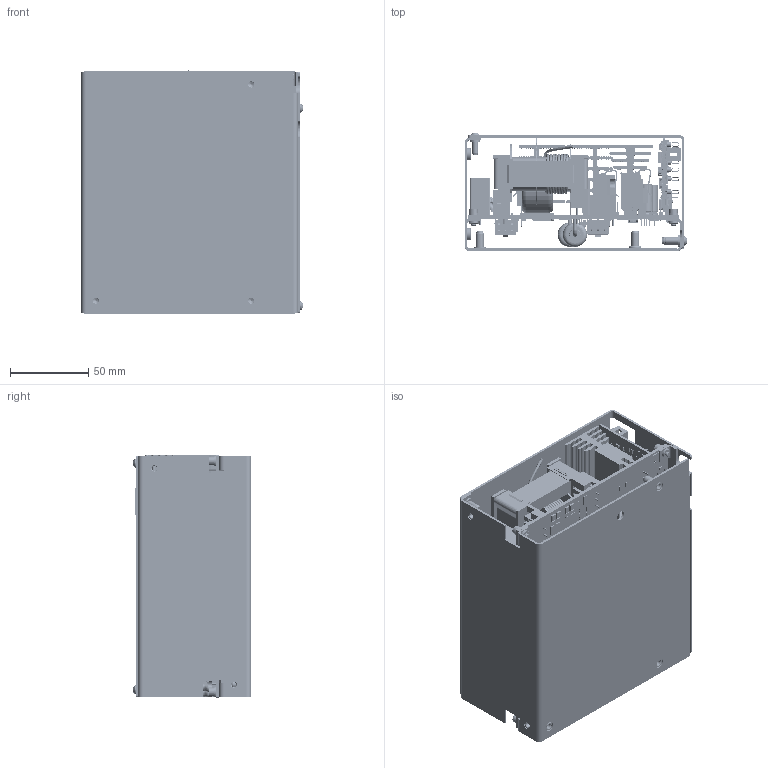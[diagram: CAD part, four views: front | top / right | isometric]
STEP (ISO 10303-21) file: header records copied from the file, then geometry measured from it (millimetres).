
FILE_DESCRIPTION (( 'STEP AP214' ), '1' );
FILE_NAME ('410.00.00.000-05_PCP-17.STEP', '2021-10-24T08:22:20', ( '' ), ( '' ), 'SwSTEP 2.0', 'SolidWorks 2018', '' );
FILE_SCHEMA (( 'AUTOMOTIVE_DESIGN' ));
Length unit declared in the file: millimetre
Products named in the file (15): Çàêëåïêà ðåçüáîâàÿ óìåíüø. áóðòèê M4x10,5_0520; ﾘ琺矜 ﾌ3 DIN127; Ãàéêà CN clinch nut M4; Ãàéêà CN clinch nut M3; PCP30revC; 妈眚 󉱲 ISO7380; 妈眚 󉱴 DIN912; CTR24 RevA; 410.00.00.000-05_PCP-17; ﾘ琺矜 ﾌ3 DIN125; 410.01.00.001-03_扻豵鵨_-00SM-FLAT-PATTERN; 410.02.00.000-01_Ïëàòà PCP30; 410.01.00.000-03_Êîðïóñ â ñáîðå (ñáîðî÷íàÿ åäèíèöà); Çàêëåïêà ðåçüáîâàÿ óìåíüø. áóðòèê M3x0,5x9; 410.00.00.001-05_Êðûøêà
Assembly tree (36 placements, depth 3):
  410.00.00.000-05_PCP-17
    410.01.00.000-03_Êîðïóñ â ñáîðå (ñáîðî÷íàÿ åäèíèöà)
      410.01.00.001-03_扻豵鵨_-00SM-FLAT-PATTERN
      Ãàéêà CN clinch nut M3  x4
      Ãàéêà CN clinch nut M4  x2
      Çàêëåïêà ðåçüáîâàÿ óìåíüø. áóðòèê M3x0,5x9  x4
      Çàêëåïêà ðåçüáîâàÿ óìåíüø. áóðòèê M4x10,5_0520  x4
    410.02.00.000-01_Ïëàòà PCP30
      PCP30revC
      CTR24 RevA
    410.00.00.001-05_Êðûøêà
    ﾘ琺矜 ﾌ3 DIN125  x4
    ﾘ琺矜 ﾌ3 DIN127  x4
    妈眚 󉱴 DIN912  x4
    妈眚 󉱲 ISO7380  x4
Bounding box: 142.15 x 75.65 x 155.75 mm (x, y, z)
Volume: 102453.5 mm3; surface area: 347081 mm2
Topology: 32 solids, 2322 shells, 12808 faces, 66256 edges, 54860 vertices
Faces by surface type: plane 8655, cylinder 3499, bspline 312, cone 188, torus 114, sphere 40
Entity records: 768777 total; most frequent: CARTESIAN_POINT 196547, ORIENTED_EDGE 83285, DIRECTION 75871, EDGE_CURVE 63623, VERTEX_POINT 53212, LINE 35955, VECTOR 35955, AXIS2_PLACEMENT_3D 19958
